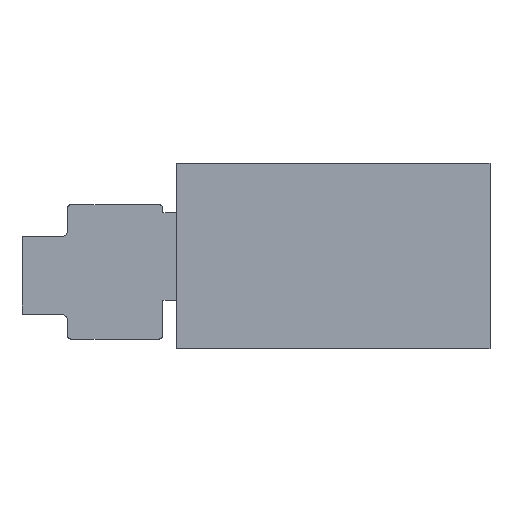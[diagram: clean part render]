
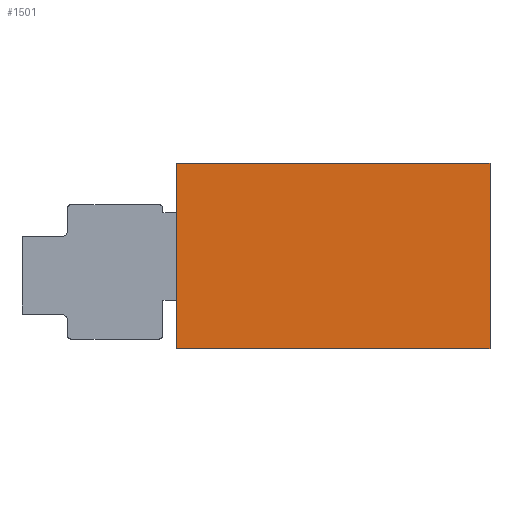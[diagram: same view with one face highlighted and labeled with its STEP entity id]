
A CAD part, top view. The second image highlights one B-rep face of the part: STEP entity #1501.
In plain terms, the highlighted planar face has unit normal (0, 0, 1).
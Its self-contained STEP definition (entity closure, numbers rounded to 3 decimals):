
#541=DIRECTION('',(0.,-1.,0.));
#542=VECTOR('',#541,60.86);
#543=CARTESIAN_POINT('',(49.15,30.43,2.8));
#544=LINE('',#543,#542);
#545=DIRECTION('',(-1.,0.,0.));
#546=VECTOR('',#545,102.57);
#547=CARTESIAN_POINT('',(49.15,-30.43,2.8));
#548=LINE('',#547,#546);
#549=DIRECTION('',(0.,1.,0.));
#550=VECTOR('',#549,60.86);
#551=CARTESIAN_POINT('',(-53.42,-30.43,2.8));
#552=LINE('',#551,#550);
#553=DIRECTION('',(1.,0.,0.));
#554=VECTOR('',#553,102.57);
#555=CARTESIAN_POINT('',(-53.42,30.43,2.8));
#556=LINE('',#555,#554);
#565=CARTESIAN_POINT('',(49.15,30.43,2.8));
#566=CARTESIAN_POINT('',(49.15,-30.43,2.8));
#567=VERTEX_POINT('',#565);
#568=VERTEX_POINT('',#566);
#569=CARTESIAN_POINT('',(-53.42,-30.43,2.8));
#570=VERTEX_POINT('',#569);
#571=CARTESIAN_POINT('',(-53.42,30.43,2.8));
#572=VERTEX_POINT('',#571);
#1490=CARTESIAN_POINT('',(634.635,-4655.881,2.8));
#1491=DIRECTION('',(0.,0.,-1.));
#1492=DIRECTION('',(0.,1.,0.));
#1493=AXIS2_PLACEMENT_3D('',#1490,#1491,#1492);
#1494=PLANE('',#1493);
#1495=ORIENTED_EDGE('',*,*,#1471,.T.);
#1496=ORIENTED_EDGE('',*,*,#1484,.T.);
#1497=ORIENTED_EDGE('',*,*,#924,.T.);
#1498=ORIENTED_EDGE('',*,*,#1457,.T.);
#1499=EDGE_LOOP('',(#1495,#1496,#1497,#1498));
#1500=FACE_OUTER_BOUND('',#1499,.F.);
#924=EDGE_CURVE('',#570,#572,#552,.T.);
#1457=EDGE_CURVE('',#572,#567,#556,.T.);
#1471=EDGE_CURVE('',#567,#568,#544,.T.);
#1484=EDGE_CURVE('',#568,#570,#548,.T.);
#1501=ADVANCED_FACE('',(#1500),#1494,.F.);
